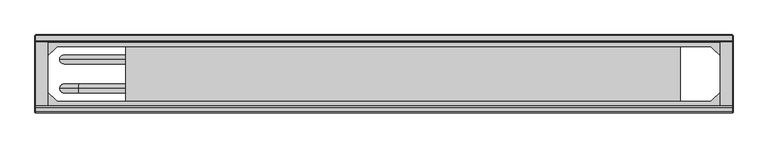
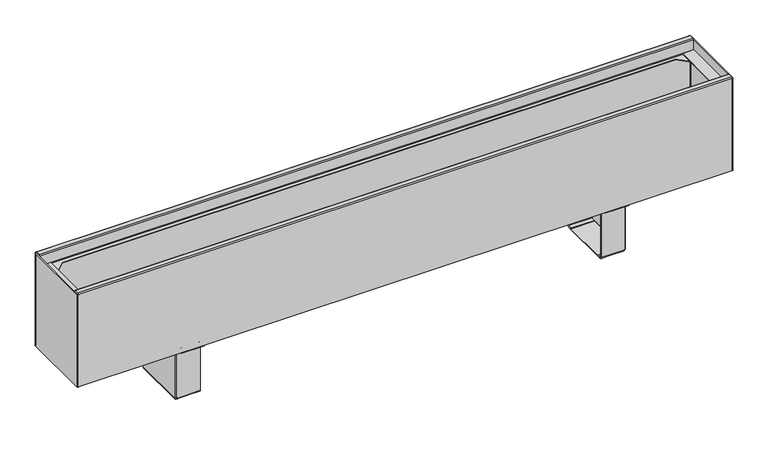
"""IFC4 building model written with IfcOpenShell, lengths in millimetres: proxy geometry, TECHNO_Конвектор напольный_Vita KPZ 135 : KPZ 135-180-1."""

from ifc_helpers import new_model, si_unit, point, frame, origin, place, context, project, spatial, polyline, circle_curve, ellipse_curve, trimmed, outline, extrude, source, transform, mapped, element, save
from ifc_brep_helpers import plane_surface, cylinder_surface, revolved_surface, advanced_brep


def mechanical_equipment_2dd0603b(model_context):
    return source(origin(), model_context, "Body", "SolidModel", [
        advanced_brep(
        [(409.7, -116.8, 1.5), (409.7, -114.5, 3.8), (409.7, -114.5, 4.9), (409.7, -116.0, 4.9), (409.7, -116.0, 3.8), (409.7, -116.8, 3.0), (409.7, -124.5, 3.0), (409.7, -124.5, 1.5), (409.7, -117.6, 1.5), (409.7, -114.5, 97.7), (409.7, -113.7, 98.5), (409.7, -101.0, 98.5), (409.7, -101.0, 100.0), (409.7, -113.7, 100.0), (409.7, -116.0, 97.7), (409.7, -116.0, 95.5), (409.7, -114.5, 95.5), (409.7, -220.5, 3.8), (409.7, -218.2, 1.5), (409.7, -217.4, 1.5), (409.7, -210.5, 1.5), (409.7, -210.5, 3.0), (409.7, -218.2, 3.0), (409.7, -219.0, 3.8), (409.7, -219.0, 4.9), (409.7, -220.5, 4.9), (409.7, -219.0, 97.7), (409.7, -221.3, 100.0), (409.7, -234.0, 100.0), (409.7, -234.0, 98.5), (409.7, -221.3, 98.5), (409.7, -220.5, 97.7), (409.7, -220.5, 95.5), (409.7, -219.0, 95.5), (367.0, -220.5, 97.7), (367.0, -221.3, 98.5), (367.0, -234.0, 98.5), (367.0, -234.0, 100.0), (367.0, -221.3, 100.0), (367.0, -219.0, 97.7), (367.0, -219.0, 3.8), (367.0, -218.2, 3.0), (367.0, -210.5, 3.0), (367.0, -210.5, 1.5), (367.0, -124.5, 1.5), (367.0, -124.5, 3.0), (367.0, -116.8, 3.0), (367.0, -116.0, 3.8), (367.0, -116.0, 97.7), (367.0, -113.7, 100.0), (367.0, -101.0, 100.0), (367.0, -101.0, 98.5), (367.0, -113.7, 98.5), (367.0, -114.5, 97.7), (367.0, -114.5, 3.8), (367.0, -116.8, 1.5), (367.0, -117.6, 1.5), (367.0, -117.6, 0.0), (367.0, -217.4, 0.0), (367.0, -217.4, 1.5), (367.0, -218.2, 1.5), (367.0, -220.5, 3.8), (410.5, -116.8, 95.5), (410.5, -218.2, 95.5), (412.0, -218.2, 95.5), (412.0, -116.8, 95.5), (412.0, -116.8, 4.9), (412.0, -117.6, 4.9), (410.5, -117.6, 4.9), (410.5, -116.8, 4.9), (410.5, -218.2, 4.9), (410.5, -217.4, 4.9), (412.0, -217.4, 4.9), (412.0, -218.2, 4.9), (410.5, -117.6, 2.3), (410.5, -217.4, 2.3), (412.0, -217.4, 2.3), (412.0, -117.6, 2.3), (409.7, -117.6, 0.0), (409.7, -217.4, 0.0)],
        [
            (0, 1, circle_curve(frame((409.7, -116.8, 3.8), z_axis=(1.0, 0.0, 0.0), x_axis=(0.0, -1.0, 0.0)), 2.3)),
            (1, 2),
            (2, 3),
            (3, 4),
            (4, 5, circle_curve(frame((409.7, -116.8, 3.8), z_axis=(-1.0, 0.0, 0.0), x_axis=(0.0, -1.0, 0.0)), 0.8)),
            (5, 6),
            (6, 7),
            (7, 8),
            (8, 0),
            (9, 10, circle_curve(frame((409.7, -113.7, 97.7), z_axis=(-1.0, 0.0, 0.0), x_axis=(0.0, -1.0, 0.0)), 0.8)),
            (10, 11),
            (11, 12),
            (12, 13),
            (13, 14, circle_curve(frame((409.7, -113.7, 97.7), z_axis=(1.0, 0.0, 0.0), x_axis=(0.0, -1.0, 0.0)), 2.3)),
            (14, 15),
            (15, 16),
            (16, 9),
            (17, 18, circle_curve(frame((409.7, -218.2, 3.8), z_axis=(1.0, 0.0, 0.0), x_axis=(0.0, -1.0, 0.0)), 2.3)),
            (18, 19),
            (19, 20),
            (20, 21),
            (21, 22),
            (22, 23, circle_curve(frame((409.7, -218.2, 3.8), z_axis=(-1.0, 0.0, 0.0), x_axis=(0.0, -1.0, 0.0)), 0.8)),
            (23, 24),
            (24, 25),
            (25, 17),
            (26, 27, circle_curve(frame((409.7, -221.3, 97.7), z_axis=(1.0, 0.0, 0.0), x_axis=(0.0, -1.0, 0.0)), 2.3)),
            (27, 28),
            (28, 29),
            (29, 30),
            (30, 31, circle_curve(frame((409.7, -221.3, 97.7), z_axis=(-1.0, 0.0, 0.0), x_axis=(0.0, -1.0, 0.0)), 0.8)),
            (31, 32),
            (32, 33),
            (33, 26),
            (34, 35, circle_curve(frame((367.0, -221.3, 97.7), z_axis=(1.0, 0.0, 0.0), x_axis=(0.0, -1.0, 0.0)), 0.8)),
            (35, 36),
            (36, 37),
            (37, 38),
            (38, 39, circle_curve(frame((367.0, -221.3, 97.7), z_axis=(-1.0, 0.0, 0.0), x_axis=(0.0, -1.0, 0.0)), 2.3)),
            (39, 40),
            (40, 41, circle_curve(frame((367.0, -218.2, 3.8), z_axis=(1.0, 0.0, 0.0), x_axis=(0.0, -1.0, 0.0)), 0.8)),
            (41, 42),
            (42, 43),
            (43, 44),
            (44, 45),
            (45, 46),
            (46, 47, circle_curve(frame((367.0, -116.8, 3.8), z_axis=(1.0, 0.0, 0.0), x_axis=(0.0, -1.0, 0.0)), 0.8)),
            (47, 48),
            (48, 49, circle_curve(frame((367.0, -113.7, 97.7), z_axis=(-1.0, 0.0, 0.0), x_axis=(0.0, -1.0, 0.0)), 2.3)),
            (49, 50),
            (50, 51),
            (51, 52),
            (52, 53, circle_curve(frame((367.0, -113.7, 97.7), z_axis=(1.0, 0.0, 0.0), x_axis=(0.0, -1.0, 0.0)), 0.8)),
            (53, 54),
            (54, 55, circle_curve(frame((367.0, -116.8, 3.8), z_axis=(-1.0, 0.0, 0.0), x_axis=(0.0, -1.0, 0.0)), 2.3)),
            (55, 56),
            (56, 57),
            (57, 58),
            (58, 59),
            (59, 60),
            (60, 61, circle_curve(frame((367.0, -218.2, 3.8), z_axis=(-1.0, 0.0, 0.0), x_axis=(0.0, -1.0, 0.0)), 2.3)),
            (61, 34),
            (30, 35),
            (34, 31),
            (29, 36),
            (28, 37),
            (27, 38),
            (26, 39),
            (33, 24),
            (23, 40),
            (22, 41),
            (5, 46),
            (45, 6),
            (4, 47),
            (3, 15),
            (14, 48),
            (13, 49),
            (12, 50),
            (11, 51),
            (10, 52),
            (9, 53),
            (16, 2),
            (1, 54),
            (0, 55),
            (8, 56),
            (17, 61),
            (60, 18),
            (25, 32),
            (21, 42),
            (20, 43),
            (59, 19),
            (44, 7),
            (15, 62, circle_curve(frame((409.7, -116.8, 95.5), z_axis=(0.0, 0.0, -1.0), x_axis=(-1.0, 0.0, 0.0)), 0.8)),
            (62, 63),
            (63, 33, circle_curve(frame((409.7, -218.2, 95.5), z_axis=(0.0, 0.0, -1.0), x_axis=(-1.0, 0.0, 0.0)), 0.8)),
            (32, 64, circle_curve(frame((409.7, -218.2, 95.5), z_axis=(0.0, 0.0, 1.0), x_axis=(-1.0, 0.0, 0.0)), 2.3)),
            (64, 65),
            (65, 16, circle_curve(frame((409.7, -116.8, 95.5), z_axis=(0.0, 0.0, 1.0), x_axis=(-1.0, 0.0, 0.0)), 2.3)),
            (2, 66, circle_curve(frame((409.7, -116.8, 4.9), z_axis=(0.0, 0.0, -1.0), x_axis=(-1.0, 0.0, 0.0)), 2.3)),
            (66, 67),
            (67, 68),
            (68, 69),
            (69, 3, circle_curve(frame((409.7, -116.8, 4.9), z_axis=(0.0, 0.0, 1.0), x_axis=(-1.0, 0.0, 0.0)), 0.8)),
            (24, 70, circle_curve(frame((409.7, -218.2, 4.9), z_axis=(0.0, 0.0, 1.0), x_axis=(-1.0, 0.0, 0.0)), 0.8)),
            (70, 71),
            (71, 72),
            (72, 73),
            (73, 25, circle_curve(frame((409.7, -218.2, 4.9), z_axis=(0.0, 0.0, -1.0), x_axis=(-1.0, 0.0, 0.0)), 2.3)),
            (69, 62),
            (68, 74),
            (74, 75),
            (75, 71),
            (70, 63),
            (64, 73),
            (72, 76),
            (76, 77),
            (77, 67),
            (66, 65),
            (8, 74, circle_curve(frame((409.7, -117.6, 2.3), z_axis=(0.0, -1.0, 0.0), x_axis=(-1.0, 0.0, 0.0)), 0.8)),
            (77, 78, circle_curve(frame((409.7, -117.6, 2.3), z_axis=(0.0, 1.0, 0.0), x_axis=(-1.0, 0.0, 0.0)), 2.3)),
            (78, 57),
            (58, 79),
            (79, 76, circle_curve(frame((409.7, -217.4, 2.3), z_axis=(0.0, -1.0, 0.0), x_axis=(-1.0, 0.0, 0.0)), 2.3)),
            (75, 19, circle_curve(frame((409.7, -217.4, 2.3), z_axis=(0.0, 1.0, 0.0), x_axis=(-1.0, 0.0, 0.0)), 0.8)),
            (20, 7),
            (79, 78),
        ],
        [
            plane_surface(frame((409.7, -222.1, 97.7), z_axis=(1.0, 0.0, 0.0), x_axis=(0.0, 0.0, 1.0))),
            plane_surface(frame((367.0, -222.1, 97.7), z_axis=(-1.0, 0.0, 0.0), x_axis=(0.0, 0.0, -1.0))),
            revolved_surface(polyline([(409.7, -222.10000000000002, 97.7), (367.0, -222.10000000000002, 97.7)]), (409.7, -221.3, 97.7), (1.0, 0.0, 0.0)),
            plane_surface(frame((367.0, -221.3, 98.5), z_axis=(0.0, 0.0, -1.0), x_axis=(1.0, 0.0, 0.0))),
            plane_surface(frame((367.0, -234.0, 98.5), z_axis=(0.0, -1.0, 0.0), x_axis=(1.0, 0.0, 0.0))),
            plane_surface(frame((367.0, -234.0, 100.0), z_axis=(0.0, 0.0, 1.0), x_axis=(1.0, 0.0, 0.0))),
            cylinder_surface(frame((409.7, -221.3, 97.7), z_axis=(-1.0, 0.0, 0.0), x_axis=(0.0, -1.0, 0.0)), 2.3),
            plane_surface(frame((367.0, -219.0, 97.7), z_axis=(0.0, 1.0, 0.0), x_axis=(1.0, 0.0, 0.0))),
            revolved_surface(polyline([(409.7, -219.0, 3.8), (367.0, -219.0, 3.8)]), (409.7, -218.2, 3.8), (1.0, 0.0, 0.0)),
            plane_surface(frame((367.0, -124.5, 3.0), z_axis=(0.0, 0.0, 1.0), x_axis=(1.0, 0.0, 0.0))),
            revolved_surface(polyline([(409.7, -117.6, 3.8), (367.0, -117.6, 3.8)]), (412.0, -116.8, 3.8), (1.0, 0.0, 0.0)),
            plane_surface(frame((367.0, -116.0, 3.8), z_axis=(0.0, -1.0, 0.0), x_axis=(1.0, 0.0, 0.0))),
            cylinder_surface(frame((412.0, -113.7, 97.7), z_axis=(-1.0, 0.0, 0.0), x_axis=(0.0, -1.0, 0.0)), 2.3),
            plane_surface(frame((367.0, -113.7, 100.0), z_axis=(0.0, 0.0, 1.0), x_axis=(1.0, 0.0, 0.0))),
            plane_surface(frame((367.0, -101.0, 100.0), z_axis=(0.0, 1.0, 0.0), x_axis=(1.0, 0.0, 0.0))),
            plane_surface(frame((367.0, -101.0, 98.5), z_axis=(0.0, 0.0, -1.0), x_axis=(1.0, 0.0, 0.0))),
            revolved_surface(polyline([(409.7, -114.5, 97.7), (367.0, -114.5, 97.7)]), (412.0, -113.7, 97.7), (1.0, 0.0, 0.0)),
            plane_surface(frame((367.0, -114.5, 97.7), z_axis=(0.0, 1.0, 0.0), x_axis=(1.0, 0.0, 0.0))),
            cylinder_surface(frame((412.0, -116.8, 3.8), z_axis=(-1.0, 0.0, 0.0), x_axis=(0.0, -1.0, 0.0)), 2.3),
            plane_surface(frame((367.0, -116.8, 1.5), z_axis=(0.0, 0.0, -1.0), x_axis=(1.0, 0.0, 0.0))),
            cylinder_surface(frame((409.7, -218.2, 3.8), z_axis=(-1.0, 0.0, 0.0), x_axis=(0.0, -1.0, 0.0)), 2.3),
            plane_surface(frame((367.0, -220.5, 3.8), z_axis=(0.0, -1.0, 0.0), x_axis=(1.0, 0.0, 0.0))),
            plane_surface(frame((367.0, -218.2, 3.0), z_axis=(0.0, 0.0, 1.0), x_axis=(1.0, 0.0, 0.0))),
            plane_surface(frame((367.0, -210.5, 3.0), z_axis=(0.0, 1.0, 0.0), x_axis=(1.0, 0.0, 0.0))),
            plane_surface(frame((367.0, -210.5, 1.5), z_axis=(0.0, 0.0, -1.0), x_axis=(1.0, 0.0, 0.0))),
            plane_surface(frame((367.0, -124.5, 1.5), z_axis=(0.0, -1.0, 0.0), x_axis=(1.0, 0.0, 0.0))),
            plane_surface(frame((409.7, -116.0, 95.5), z_axis=(0.0, 0.0, 1.0), x_axis=(0.0, -1.0, 0.0))),
            plane_surface(frame((409.7, -116.0, 4.9), z_axis=(0.0, 0.0, -1.0), x_axis=(0.0, 1.0, 0.0))),
            revolved_surface(polyline([(408.9, -116.8, 4.9), (408.9, -116.8, 95.5)]), (409.7, -116.8, 4.9), (0.0, 0.0, -1.0)),
            plane_surface(frame((410.5, -116.8, 95.5), z_axis=(-1.0, 0.0, 0.0), x_axis=(0.0, 0.0, -1.0))),
            plane_surface(frame((412.0, -117.6, 95.5), z_axis=(1.0, 0.0, 0.0), x_axis=(0.0, 0.0, -1.0))),
            cylinder_surface(frame((409.7, -116.8, 4.9), z_axis=(0.0, 0.0, 1.0), x_axis=(-1.0, 0.0, 0.0)), 2.3),
            cylinder_surface(frame((409.7, -218.2, 0.0), z_axis=(0.0, 0.0, 1.0), x_axis=(-1.0, 0.0, 0.0)), 2.3),
            revolved_surface(polyline([(408.9, -218.2, 4.9), (408.9, -218.2, 95.5)]), (409.7, -218.2, 0.0), (0.0, 0.0, -1.0)),
            plane_surface(frame((367.0, -117.6, 1.5), z_axis=(0.0, 1.0, 0.0), x_axis=(0.0, 0.0, 1.0))),
            plane_surface(frame((367.0, -217.4, 1.5), z_axis=(0.0, -1.0, 0.0), x_axis=(0.0, 0.0, -1.0))),
            plane_surface(frame((367.0, -117.6, 1.5), z_axis=(0.0, 0.0, 1.0), x_axis=(0.0, -1.0, 0.0))),
            revolved_surface(polyline([(408.9, -217.4, 2.3), (408.9, -117.6, 2.3)]), (409.7, -217.4, 2.3), (0.0, -1.0, 0.0)),
            cylinder_surface(frame((409.7, -217.4, 2.3), z_axis=(0.0, 1.0, 0.0), x_axis=(-1.0, 0.0, 0.0)), 2.3),
            plane_surface(frame((409.7, -117.6, 0.0), z_axis=(0.0, 0.0, -1.0), x_axis=(0.0, -1.0, 0.0))),
        ],
        [
            (0, [[1, 2, 3, 4, 5, 6, 7, 8, 9]]),
            (0, [[10, 11, 12, 13, 14, 15, 16, 17]]),
            (0, [[18, 19, 20, 21, 22, 23, 24, 25, 26]]),
            (0, [[27, 28, 29, 30, 31, 32, 33, 34]]),
            (1, [[35, 36, 37, 38, 39, 40, 41, 42, 43, 44, 45, 46, 47, 48, 49, 50, 51, 52, 53, 54, 55, 56, 57, 58, 59, 60, 61, 62]]),
            (2, [[-31, 63, -35, 64]]),
            (3, [[-30, 65, -36, -63]]),
            (4, [[-29, 66, -37, -65]]),
            (5, [[-28, 67, -38, -66]]),
            (6, [[-27, 68, -39, -67]]),
            (7, [[-40, -68, -34, 69, -24, 70]]),
            (8, [[-23, 71, -41, -70]]),
            (9, [[-6, 72, -46, 73]]),
            (10, [[-5, 74, -47, -72]]),
            (11, [[-48, -74, -4, 75, -15, 76]]),
            (12, [[-14, 77, -49, -76]]),
            (13, [[-13, 78, -50, -77]]),
            (14, [[-12, 79, -51, -78]]),
            (15, [[-11, 80, -52, -79]]),
            (16, [[-10, 81, -53, -80]]),
            (17, [[-54, -81, -17, 82, -2, 83]]),
            (18, [[-1, 84, -55, -83]]),
            (19, [[-84, -9, 85, -56]]),
            (20, [[-18, 86, -61, 87]]),
            (21, [[-62, -86, -26, 88, -32, -64]]),
            (22, [[-22, 89, -42, -71]]),
            (23, [[-21, 90, -43, -89]]),
            (24, [[-87, -60, 91, -19]]),
            (25, [[-7, -73, -45, 92]]),
            (26, [[93, 94, 95, -33, 96, 97, 98, -16]]),
            (27, [[99, 100, 101, 102, 103, -3]]),
            (27, [[104, 105, 106, 107, 108, -25]]),
            (28, [[-93, -75, -103, 109]]),
            (29, [[-94, -109, -102, 110, 111, 112, -105, 113]]),
            (30, [[-97, 114, -107, 115, 116, 117, -100, 118]]),
            (31, [[-98, -118, -99, -82]]),
            (32, [[-96, -88, -108, -114]]),
            (33, [[-95, -113, -104, -69]]),
            (34, [[-57, -85, 119, -110, -101, -117, 120, 121]]),
            (35, [[122, 123, -115, -106, -112, 124, -91, -59]]),
            (36, [[125, -92, -44, -90]]),
            (37, [[-119, -8, -125, -20, -124, -111]]),
            (38, [[-120, -116, -123, 126]]),
            (39, [[-121, -126, -122, -58]]),
        ],
    ),
        advanced_brep(
        [(-409.7, -218.2, 1.5), (-409.7, -220.5, 3.8), (-409.7, -220.5, 4.9), (-409.7, -219.0, 4.9), (-409.7, -219.0, 3.8), (-409.7, -218.2, 3.0), (-409.7, -210.5, 3.0), (-409.7, -210.5, 1.5), (-409.7, -217.4, 1.5), (-409.7, -220.5, 97.7), (-409.7, -221.3, 98.5), (-409.7, -234.0, 98.5), (-409.7, -234.0, 100.0), (-409.7, -221.3, 100.0), (-409.7, -219.0, 97.7), (-409.7, -219.0, 95.5), (-409.7, -220.5, 95.5), (-409.7, -114.5, 3.8), (-409.7, -116.8, 1.5), (-409.7, -117.6, 1.5), (-409.7, -124.5, 1.5), (-409.7, -124.5, 3.0), (-409.7, -116.8, 3.0), (-409.7, -116.0, 3.8), (-409.7, -116.0, 4.9), (-409.7, -114.5, 4.9), (-409.7, -116.0, 97.7), (-409.7, -113.7, 100.0), (-409.7, -101.0, 100.0), (-409.7, -101.0, 98.5), (-409.7, -113.7, 98.5), (-409.7, -114.5, 97.7), (-409.7, -114.5, 95.5), (-409.7, -116.0, 95.5), (-367.0, -114.5, 97.7), (-367.0, -113.7, 98.5), (-367.0, -101.0, 98.5), (-367.0, -101.0, 100.0), (-367.0, -113.7, 100.0), (-367.0, -116.0, 97.7), (-367.0, -116.0, 3.8), (-367.0, -116.8, 3.0), (-367.0, -124.5, 3.0), (-367.0, -124.5, 1.5), (-367.0, -210.5, 1.5), (-367.0, -210.5, 3.0), (-367.0, -218.2, 3.0), (-367.0, -219.0, 3.8), (-367.0, -219.0, 97.7), (-367.0, -221.3, 100.0), (-367.0, -234.0, 100.0), (-367.0, -234.0, 98.5), (-367.0, -221.3, 98.5), (-367.0, -220.5, 97.7), (-367.0, -220.5, 3.8), (-367.0, -218.2, 1.5), (-367.0, -217.4, 1.5), (-367.0, -217.4, 0.0), (-367.0, -117.6, 0.0), (-367.0, -117.6, 1.5), (-367.0, -116.8, 1.5), (-367.0, -114.5, 3.8), (-410.5, -218.2, 95.5), (-410.5, -116.8, 95.5), (-412.0, -116.8, 95.5), (-412.0, -218.2, 95.5), (-412.0, -218.2, 4.9), (-412.0, -217.4, 4.9), (-410.5, -217.4, 4.9), (-410.5, -218.2, 4.9), (-410.5, -116.8, 4.9), (-410.5, -117.6, 4.9), (-412.0, -117.6, 4.9), (-412.0, -116.8, 4.9), (-410.5, -217.4, 2.3), (-410.5, -117.6, 2.3), (-412.0, -117.6, 2.3), (-412.0, -217.4, 2.3), (-409.7, -217.4, 0.0), (-409.7, -117.6, 0.0)],
        [
            (0, 1, circle_curve(frame((-409.7, -218.2, 3.8), z_axis=(-1.0, 0.0, 0.0), x_axis=(0.0, 1.0, 0.0)), 2.3)),
            (1, 2),
            (2, 3),
            (3, 4),
            (4, 5, circle_curve(frame((-409.7, -218.2, 3.8), z_axis=(1.0, 0.0, 0.0), x_axis=(0.0, 1.0, 0.0)), 0.8)),
            (5, 6),
            (6, 7),
            (7, 8),
            (8, 0),
            (9, 10, circle_curve(frame((-409.7, -221.3, 97.7), z_axis=(1.0, 0.0, 0.0), x_axis=(0.0, 1.0, 0.0)), 0.8)),
            (10, 11),
            (11, 12),
            (12, 13),
            (13, 14, circle_curve(frame((-409.7, -221.3, 97.7), z_axis=(-1.0, 0.0, 0.0), x_axis=(0.0, 1.0, 0.0)), 2.3)),
            (14, 15),
            (15, 16),
            (16, 9),
            (17, 18, circle_curve(frame((-409.7, -116.8, 3.8), z_axis=(-1.0, 0.0, 0.0), x_axis=(0.0, 1.0, 0.0)), 2.3)),
            (18, 19),
            (19, 20),
            (20, 21),
            (21, 22),
            (22, 23, circle_curve(frame((-409.7, -116.8, 3.8), z_axis=(1.0, 0.0, 0.0), x_axis=(0.0, 1.0, 0.0)), 0.8)),
            (23, 24),
            (24, 25),
            (25, 17),
            (26, 27, circle_curve(frame((-409.7, -113.7, 97.7), z_axis=(-1.0, 0.0, 0.0), x_axis=(0.0, 1.0, 0.0)), 2.3)),
            (27, 28),
            (28, 29),
            (29, 30),
            (30, 31, circle_curve(frame((-409.7, -113.7, 97.7), z_axis=(1.0, 0.0, 0.0), x_axis=(0.0, 1.0, 0.0)), 0.8)),
            (31, 32),
            (32, 33),
            (33, 26),
            (34, 35, circle_curve(frame((-367.0, -113.7, 97.7), z_axis=(-1.0, 0.0, 0.0), x_axis=(0.0, 1.0, 0.0)), 0.8)),
            (35, 36),
            (36, 37),
            (37, 38),
            (38, 39, circle_curve(frame((-367.0, -113.7, 97.7), z_axis=(1.0, 0.0, 0.0), x_axis=(0.0, 1.0, 0.0)), 2.3)),
            (39, 40),
            (40, 41, circle_curve(frame((-367.0, -116.8, 3.8), z_axis=(-1.0, 0.0, 0.0), x_axis=(0.0, 1.0, 0.0)), 0.8)),
            (41, 42),
            (42, 43),
            (43, 44),
            (44, 45),
            (45, 46),
            (46, 47, circle_curve(frame((-367.0, -218.2, 3.8), z_axis=(-1.0, 0.0, 0.0), x_axis=(0.0, 1.0, 0.0)), 0.8)),
            (47, 48),
            (48, 49, circle_curve(frame((-367.0, -221.3, 97.7), z_axis=(1.0, 0.0, 0.0), x_axis=(0.0, 1.0, 0.0)), 2.3)),
            (49, 50),
            (50, 51),
            (51, 52),
            (52, 53, circle_curve(frame((-367.0, -221.3, 97.7), z_axis=(-1.0, 0.0, 0.0), x_axis=(0.0, 1.0, 0.0)), 0.8)),
            (53, 54),
            (54, 55, circle_curve(frame((-367.0, -218.2, 3.8), z_axis=(1.0, 0.0, 0.0), x_axis=(0.0, 1.0, 0.0)), 2.3)),
            (55, 56),
            (56, 57),
            (57, 58),
            (58, 59),
            (59, 60),
            (60, 61, circle_curve(frame((-367.0, -116.8, 3.8), z_axis=(1.0, 0.0, 0.0), x_axis=(0.0, 1.0, 0.0)), 2.3)),
            (61, 34),
            (30, 35),
            (34, 31),
            (29, 36),
            (28, 37),
            (27, 38),
            (26, 39),
            (33, 24),
            (23, 40),
            (22, 41),
            (5, 46),
            (45, 6),
            (4, 47),
            (3, 15),
            (14, 48),
            (13, 49),
            (12, 50),
            (11, 51),
            (10, 52),
            (9, 53),
            (16, 2),
            (1, 54),
            (0, 55),
            (8, 56),
            (17, 61),
            (60, 18),
            (25, 32),
            (21, 42),
            (20, 43),
            (59, 19),
            (44, 7),
            (15, 62, circle_curve(frame((-409.7, -218.2, 95.5), z_axis=(0.0, 0.0, -1.0), x_axis=(1.0, 0.0, 0.0)), 0.8)),
            (62, 63),
            (63, 33, circle_curve(frame((-409.7, -116.8, 95.5), z_axis=(0.0, 0.0, -1.0), x_axis=(1.0, 0.0, 0.0)), 0.8)),
            (32, 64, circle_curve(frame((-409.7, -116.8, 95.5), z_axis=(0.0, 0.0, 1.0), x_axis=(1.0, 0.0, 0.0)), 2.3)),
            (64, 65),
            (65, 16, circle_curve(frame((-409.7, -218.2, 95.5), z_axis=(0.0, 0.0, 1.0), x_axis=(1.0, 0.0, 0.0)), 2.3)),
            (2, 66, circle_curve(frame((-409.7, -218.2, 4.9), z_axis=(0.0, 0.0, -1.0), x_axis=(1.0, 0.0, 0.0)), 2.3)),
            (66, 67),
            (67, 68),
            (68, 69),
            (69, 3, circle_curve(frame((-409.7, -218.2, 4.9), z_axis=(0.0, 0.0, 1.0), x_axis=(1.0, 0.0, 0.0)), 0.8)),
            (24, 70, circle_curve(frame((-409.7, -116.8, 4.9), z_axis=(0.0, 0.0, 1.0), x_axis=(1.0, 0.0, 0.0)), 0.8)),
            (70, 71),
            (71, 72),
            (72, 73),
            (73, 25, circle_curve(frame((-409.7, -116.8, 4.9), z_axis=(0.0, 0.0, -1.0), x_axis=(1.0, 0.0, 0.0)), 2.3)),
            (69, 62),
            (68, 74),
            (74, 75),
            (75, 71),
            (70, 63),
            (64, 73),
            (72, 76),
            (76, 77),
            (77, 67),
            (66, 65),
            (8, 74, circle_curve(frame((-409.7, -217.4, 2.3), z_axis=(0.0, 1.0, 0.0), x_axis=(1.0, 0.0, 0.0)), 0.8)),
            (77, 78, circle_curve(frame((-409.7, -217.4, 2.3), z_axis=(0.0, -1.0, 0.0), x_axis=(1.0, 0.0, 0.0)), 2.3)),
            (78, 57),
            (58, 79),
            (79, 76, circle_curve(frame((-409.7, -117.6, 2.3), z_axis=(0.0, 1.0, 0.0), x_axis=(1.0, 0.0, 0.0)), 2.3)),
            (75, 19, circle_curve(frame((-409.7, -117.6, 2.3), z_axis=(0.0, -1.0, 0.0), x_axis=(1.0, 0.0, 0.0)), 0.8)),
            (20, 7),
            (79, 78),
        ],
        [
            plane_surface(frame((-409.7, -112.9, 97.7), z_axis=(-1.0, 0.0, 0.0), x_axis=(0.0, 0.0, 1.0))),
            plane_surface(frame((-367.0, -112.9, 97.7), z_axis=(1.0, 0.0, 0.0), x_axis=(0.0, 0.0, -1.0))),
            revolved_surface(polyline([(-409.7, -112.9, 97.7), (-367.0, -112.9, 97.7)]), (-409.7, -113.7, 97.7), (-1.0, 0.0, 0.0)),
            plane_surface(frame((-367.0, -113.7, 98.5), z_axis=(0.0, 0.0, -1.0), x_axis=(-1.0, 0.0, 0.0))),
            plane_surface(frame((-367.0, -101.0, 98.5), z_axis=(0.0, 1.0, 0.0), x_axis=(-1.0, 0.0, 0.0))),
            plane_surface(frame((-367.0, -101.0, 100.0), z_axis=(0.0, 0.0, 1.0), x_axis=(-1.0, 0.0, 0.0))),
            cylinder_surface(frame((-409.7, -113.7, 97.7), z_axis=(1.0, 0.0, 0.0), x_axis=(0.0, 1.0, 0.0)), 2.3),
            plane_surface(frame((-367.0, -116.0, 97.7), z_axis=(0.0, -1.0, 0.0), x_axis=(-1.0, 0.0, 0.0))),
            revolved_surface(polyline([(-409.7, -116.0, 3.8), (-367.0, -116.0, 3.8)]), (-409.7, -116.8, 3.8), (-1.0, 0.0, 0.0)),
            plane_surface(frame((-367.0, -210.5, 3.0), z_axis=(0.0, 0.0, 1.0), x_axis=(-1.0, 0.0, 0.0))),
            revolved_surface(polyline([(-409.7, -217.39999999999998, 3.8), (-367.0, -217.39999999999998, 3.8)]), (-412.0, -218.2, 3.8), (-1.0, 0.0, 0.0)),
            plane_surface(frame((-367.0, -219.0, 3.8), z_axis=(0.0, 1.0, 0.0), x_axis=(-1.0, 0.0, 0.0))),
            cylinder_surface(frame((-412.0, -221.3, 97.7), z_axis=(1.0, 0.0, 0.0), x_axis=(0.0, 1.0, 0.0)), 2.3),
            plane_surface(frame((-367.0, -221.3, 100.0), z_axis=(0.0, 0.0, 1.0), x_axis=(-1.0, 0.0, 0.0))),
            plane_surface(frame((-367.0, -234.0, 100.0), z_axis=(0.0, -1.0, 0.0), x_axis=(-1.0, 0.0, 0.0))),
            plane_surface(frame((-367.0, -234.0, 98.5), z_axis=(0.0, 0.0, -1.0), x_axis=(-1.0, 0.0, 0.0))),
            revolved_surface(polyline([(-409.7, -220.5, 97.7), (-367.0, -220.5, 97.7)]), (-412.0, -221.3, 97.7), (-1.0, 0.0, 0.0)),
            plane_surface(frame((-367.0, -220.5, 97.7), z_axis=(0.0, -1.0, 0.0), x_axis=(-1.0, 0.0, 0.0))),
            cylinder_surface(frame((-412.0, -218.2, 3.8), z_axis=(1.0, 0.0, 0.0), x_axis=(0.0, 1.0, 0.0)), 2.3),
            plane_surface(frame((-367.0, -218.2, 1.5), z_axis=(0.0, 0.0, -1.0), x_axis=(-1.0, 0.0, 0.0))),
            cylinder_surface(frame((-409.7, -116.8, 3.8), z_axis=(1.0, 0.0, 0.0), x_axis=(0.0, 1.0, 0.0)), 2.3),
            plane_surface(frame((-367.0, -114.5, 3.8), z_axis=(0.0, 1.0, 0.0), x_axis=(-1.0, 0.0, 0.0))),
            plane_surface(frame((-367.0, -116.8, 3.0), z_axis=(0.0, 0.0, 1.0), x_axis=(-1.0, 0.0, 0.0))),
            plane_surface(frame((-367.0, -124.5, 3.0), z_axis=(0.0, -1.0, 0.0), x_axis=(-1.0, 0.0, 0.0))),
            plane_surface(frame((-367.0, -124.5, 1.5), z_axis=(0.0, 0.0, -1.0), x_axis=(-1.0, 0.0, 0.0))),
            plane_surface(frame((-367.0, -210.5, 1.5), z_axis=(0.0, 1.0, 0.0), x_axis=(-1.0, 0.0, 0.0))),
            plane_surface(frame((-409.7, -219.0, 95.5), z_axis=(0.0, 0.0, 1.0), x_axis=(0.0, 1.0, 0.0))),
            plane_surface(frame((-409.7, -219.0, 4.9), z_axis=(0.0, 0.0, -1.0), x_axis=(0.0, -1.0, 0.0))),
            revolved_surface(polyline([(-408.9, -218.2, 4.9), (-408.9, -218.2, 95.5)]), (-409.7, -218.2, 4.9), (0.0, 0.0, -1.0)),
            plane_surface(frame((-410.5, -218.2, 95.5), z_axis=(1.0, 0.0, 0.0), x_axis=(0.0, 0.0, -1.0))),
            plane_surface(frame((-412.0, -217.4, 95.5), z_axis=(-1.0, 0.0, 0.0), x_axis=(0.0, 0.0, -1.0))),
            cylinder_surface(frame((-409.7, -218.2, 4.9), z_axis=(0.0, 0.0, 1.0), x_axis=(1.0, 0.0, 0.0)), 2.3),
            cylinder_surface(frame((-409.7, -116.8, 0.0), z_axis=(0.0, 0.0, 1.0), x_axis=(1.0, 0.0, 0.0)), 2.3),
            revolved_surface(polyline([(-408.9, -116.8, 4.9), (-408.9, -116.8, 95.5)]), (-409.7, -116.8, 0.0), (0.0, 0.0, -1.0)),
            plane_surface(frame((-367.0, -217.4, 1.5), z_axis=(0.0, -1.0, 0.0), x_axis=(0.0, 0.0, 1.0))),
            plane_surface(frame((-367.0, -117.6, 1.5), z_axis=(0.0, 1.0, 0.0), x_axis=(0.0, 0.0, -1.0))),
            plane_surface(frame((-367.0, -217.4, 1.5), z_axis=(0.0, 0.0, 1.0), x_axis=(0.0, 1.0, 0.0))),
            revolved_surface(polyline([(-408.9, -117.6, 2.3), (-408.9, -217.4, 2.3)]), (-409.7, -117.6, 2.3), (0.0, 1.0, 0.0)),
            cylinder_surface(frame((-409.7, -117.6, 2.3), z_axis=(0.0, -1.0, 0.0), x_axis=(1.0, 0.0, 0.0)), 2.3),
            plane_surface(frame((-409.7, -217.4, 0.0), z_axis=(0.0, 0.0, -1.0), x_axis=(0.0, 1.0, 0.0))),
        ],
        [
            (0, [[1, 2, 3, 4, 5, 6, 7, 8, 9]]),
            (0, [[10, 11, 12, 13, 14, 15, 16, 17]]),
            (0, [[18, 19, 20, 21, 22, 23, 24, 25, 26]]),
            (0, [[27, 28, 29, 30, 31, 32, 33, 34]]),
            (1, [[35, 36, 37, 38, 39, 40, 41, 42, 43, 44, 45, 46, 47, 48, 49, 50, 51, 52, 53, 54, 55, 56, 57, 58, 59, 60, 61, 62]]),
            (2, [[-31, 63, -35, 64]]),
            (3, [[-30, 65, -36, -63]]),
            (4, [[-29, 66, -37, -65]]),
            (5, [[-28, 67, -38, -66]]),
            (6, [[-27, 68, -39, -67]]),
            (7, [[-40, -68, -34, 69, -24, 70]]),
            (8, [[-23, 71, -41, -70]]),
            (9, [[-6, 72, -46, 73]]),
            (10, [[-5, 74, -47, -72]]),
            (11, [[-48, -74, -4, 75, -15, 76]]),
            (12, [[-14, 77, -49, -76]]),
            (13, [[-13, 78, -50, -77]]),
            (14, [[-12, 79, -51, -78]]),
            (15, [[-11, 80, -52, -79]]),
            (16, [[-10, 81, -53, -80]]),
            (17, [[-54, -81, -17, 82, -2, 83]]),
            (18, [[-1, 84, -55, -83]]),
            (19, [[-84, -9, 85, -56]]),
            (20, [[-18, 86, -61, 87]]),
            (21, [[-62, -86, -26, 88, -32, -64]]),
            (22, [[-22, 89, -42, -71]]),
            (23, [[-21, 90, -43, -89]]),
            (24, [[-87, -60, 91, -19]]),
            (25, [[-7, -73, -45, 92]]),
            (26, [[93, 94, 95, -33, 96, 97, 98, -16]]),
            (27, [[99, 100, 101, 102, 103, -3]]),
            (27, [[104, 105, 106, 107, 108, -25]]),
            (28, [[-93, -75, -103, 109]]),
            (29, [[-94, -109, -102, 110, 111, 112, -105, 113]]),
            (30, [[-97, 114, -107, 115, 116, 117, -100, 118]]),
            (31, [[-98, -118, -99, -82]]),
            (32, [[-96, -88, -108, -114]]),
            (33, [[-95, -113, -104, -69]]),
            (34, [[-57, -85, 119, -110, -101, -117, 120, 121]]),
            (35, [[122, 123, -115, -106, -112, 124, -91, -59]]),
            (36, [[125, -92, -44, -90]]),
            (37, [[-119, -8, -125, -20, -124, -111]]),
            (38, [[-120, -116, -123, 126]]),
            (39, [[-121, -126, -122, -58]]),
        ],
    ),
        advanced_brep(
        [(-444.0, -192.5, 136.5), (-444.0, -192.5, 121.5), (-525.0, -192.5, 136.5), (-525.0, -192.5, 121.5), (-542.5, -192.5, 104.0), (-557.5, -192.5, 104.0), (-557.5, -192.5, 100.0), (-542.5, -192.5, 100.0)],
        [
            (0, 1, circle_curve(frame((-444.0, -192.5, 129.0), z_axis=(1.0, 0.0, 0.0), x_axis=(0.0, 0.0, -1.0)), 7.5)),
            (1, 0, circle_curve(frame((-444.0, -192.5, 129.0), z_axis=(1.0, 0.0, 0.0), x_axis=(0.0, 0.0, -1.0)), 7.5)),
            (0, 2),
            (2, 3, circle_curve(frame((-525.0, -192.5, 129.0), z_axis=(1.0, 0.0, 0.0), x_axis=(0.0, 0.0, -1.0)), 7.5)),
            (3, 1),
            (3, 2, circle_curve(frame((-525.0, -192.5, 129.0), z_axis=(1.0, 0.0, 0.0), x_axis=(0.0, 0.0, -1.0)), 7.5)),
            (4, 3, circle_curve(frame((-525.0, -192.5, 104.0), z_axis=(0.0, 1.0, 0.0), x_axis=(0.0, 0.0, 1.0)), 17.5)),
            (2, 5, circle_curve(frame((-525.0, -192.5, 104.0), z_axis=(0.0, -1.0, 0.0), x_axis=(0.0, 0.0, 1.0)), 32.5)),
            (5, 4, circle_curve(frame((-550.0, -192.5, 104.0), z_axis=(0.0, 0.0, 1.0), x_axis=(1.0, 0.0, 0.0)), 7.5)),
            (4, 5, circle_curve(frame((-550.0, -192.5, 104.0), z_axis=(0.0, 0.0, 1.0), x_axis=(1.0, 0.0, 0.0)), 7.5)),
            (6, 7, circle_curve(frame((-550.0, -192.5, 100.0), z_axis=(0.0, 0.0, -1.0), x_axis=(1.0, 0.0, 0.0)), 7.5)),
            (7, 6, circle_curve(frame((-550.0, -192.5, 100.0), z_axis=(0.0, 0.0, -1.0), x_axis=(1.0, 0.0, 0.0)), 7.5)),
            (5, 6),
            (7, 4),
        ],
        [
            plane_surface(frame((-444.0, -192.5, 129.0), z_axis=(1.0, 0.0, 0.0), x_axis=(0.0, -1.0, 0.0))),
            cylinder_surface(frame((-444.0, -192.5, 129.0), z_axis=(1.0, 0.0, 0.0), x_axis=(0.0, 0.0, -1.0)), 7.5),
            revolved_surface(trimmed(ellipse_curve(frame((-525.0, -192.5, 129.0), z_axis=(1.0, 0.0, 0.0), x_axis=(0.0, 0.0, -1.0)), 7.5, 7.5), [point((-525.0, -192.5, 136.5))], [point((-525.0, -192.5, 121.5))], True, "CARTESIAN"), (-525.0, -192.5, 104.0), (0.0, -1.0, 0.0)),
            revolved_surface(trimmed(ellipse_curve(frame((-525.0, -192.5, 129.0), z_axis=(1.0, 0.0, 0.0), x_axis=(0.0, 0.0, -1.0)), 7.5, 7.5), [point((-525.0, -192.5, 121.5))], [point((-525.0, -192.5, 136.5))], True, "CARTESIAN"), (-525.0, -192.5, 104.0), (0.0, -1.0, 0.0)),
            plane_surface(frame((-550.0, -192.5, 100.0), z_axis=(0.0, 0.0, -1.0), x_axis=(0.0, -1.0, 0.0))),
            cylinder_surface(frame((-550.0, -192.5, 104.0), z_axis=(0.0, 0.0, 1.0), x_axis=(1.0, 0.0, 0.0)), 7.5),
        ],
        [
            (0, [[1, 2]]),
            (1, [[-1, 3, 4, 5]]),
            (1, [[-2, -5, 6, -3]]),
            (2, [[7, -4, 8, 9]]),
            (3, [[-8, -6, -7, 10]]),
            (4, [[11, 12]]),
            (5, [[-9, 13, -12, 14]]),
            (5, [[-10, -14, -11, -13]]),
        ],
    ),
        advanced_brep(
        [(-444.0, -142.5, 136.5), (-444.0, -142.5, 121.5), (-557.5, -142.5, 136.5), (-542.5, -142.5, 121.5), (-557.5, -142.5, 100.0), (-542.5, -142.5, 100.0)],
        [
            (0, 1, circle_curve(frame((-444.0, -142.5, 129.0), z_axis=(1.0, 0.0, 0.0), x_axis=(0.0, 0.0, -1.0)), 7.5)),
            (1, 0, circle_curve(frame((-444.0, -142.5, 129.0), z_axis=(1.0, 0.0, 0.0), x_axis=(0.0, 0.0, -1.0)), 7.5)),
            (0, 2),
            (2, 3, ellipse_curve(frame((-550.0, -142.5, 129.0), z_axis=(0.7071067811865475, 0.0, 0.7071067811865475), x_axis=(0.7071067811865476, 0.0, -0.7071067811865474)), 10.6066017, 7.5)),
            (3, 1),
            (3, 2, ellipse_curve(frame((-550.0, -142.5, 129.0), z_axis=(0.7071067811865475, 0.0, 0.7071067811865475), x_axis=(0.7071067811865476, 0.0, -0.7071067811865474)), 10.6066017, 7.5)),
            (4, 5, circle_curve(frame((-550.0, -142.5, 100.0), z_axis=(0.0, 0.0, -1.0), x_axis=(1.0, 0.0, 0.0)), 7.5)),
            (5, 4, circle_curve(frame((-550.0, -142.5, 100.0), z_axis=(0.0, 0.0, -1.0), x_axis=(1.0, 0.0, 0.0)), 7.5)),
            (2, 4),
            (5, 3),
        ],
        [
            plane_surface(frame((-444.0, -142.5, 129.0), z_axis=(1.0, 0.0, 0.0), x_axis=(0.0, -1.0, 0.0))),
            cylinder_surface(frame((-444.0, -142.5, 129.0), z_axis=(1.0, 0.0, 0.0), x_axis=(0.0, 0.0, -1.0)), 7.5),
            plane_surface(frame((-550.0, -142.5, 100.0), z_axis=(0.0, 0.0, -1.0), x_axis=(0.0, -1.0, 0.0))),
            cylinder_surface(frame((-550.0, -142.5, 129.0), z_axis=(0.0, 0.0, 1.0), x_axis=(1.0, 0.0, 0.0)), 7.5),
        ],
        [
            (0, [[1, 2]]),
            (1, [[-1, 3, 4, 5]]),
            (1, [[-2, -5, 6, -3]]),
            (2, [[7, 8]]),
            (3, [[-4, 9, -8, 10]]),
            (3, [[-6, -10, -7, -9]]),
        ],
    ),
        extrude(outline(polyline([(509.0, -117.5), (509.0, -217.5), (-444.0, -217.5), (-444.0, -117.5), (509.0, -117.5)])), frame((0.0, 0.0, 103.87), z_axis=(0.0, 0.0, 1.0), x_axis=(1.0, 0.0, 0.0)), (0.0, 0.0, 1.0), 50.0),
        extrude(outline(polyline([(-585.5004, -102.0), (-585.5004, -233.0), (-599.0, -233.0), (-599.0, -102.0), (-585.5004, -102.0)])), frame((0.0, 0.0, 101.83), z_axis=(0.0, 0.0, 1.0), x_axis=(1.0, 0.0, 0.0)), (0.0, 0.0, 1.0), 1.0002),
        extrude(outline(polyline([(585.5004, -102.0), (599.0, -102.0), (599.0, -233.0), (585.5004, -233.0), (585.5004, -102.0)])), frame((0.0, 0.0, 101.83), z_axis=(0.0, 0.0, 1.0), x_axis=(1.0, 0.0, 0.0)), (0.0, 0.0, 1.0), 1.0002),
        extrude(outline(polyline([(-599.0, -222.2), (-599.0, -112.8), (-578.0, -112.8), (-578.0, -222.2), (-599.0, -222.2)])), frame((0.0, 0.0, 258.83), z_axis=(0.0, 0.0, 1.0), x_axis=(1.0, 0.0, 0.0)), (0.0, 0.0, 1.0), 1.0002),
        extrude(outline(polyline([(599.0, -222.2), (578.0, -222.2), (578.0, -112.8), (599.0, -112.8), (599.0, -222.2)])), frame((0.0, 0.0, 258.83), z_axis=(0.0, 0.0, 1.0), x_axis=(1.0, 0.0, 0.0)), (0.0, 0.0, 1.0), 1.0002),
        advanced_brep(
        [(-598.2, -101.8, 280.83), (-598.2, -100.0, 279.03), (-598.2, -101.0, 279.03), (-598.2, -101.0, 257.83), (-598.2, -138.5, 257.83), (-598.2, -138.5, 258.83), (-598.2, -112.8, 258.83), (-598.2, -112.0, 259.63), (-598.2, -112.0, 279.03), (-598.2, -110.2, 280.83), (-598.2, -233.2, 280.83), (-598.2, -224.8, 280.83), (-598.2, -223.0, 279.03), (-598.2, -223.0, 259.63), (-598.2, -222.2, 258.83), (-598.2, -196.5, 258.83), (-598.2, -196.5, 257.83), (-598.2, -234.0, 257.83), (-598.2, -234.0, 279.03), (-598.2, -235.0, 279.03), (598.2, -101.8, 280.83), (598.2, -110.2, 280.83), (598.2, -112.0, 279.03), (598.2, -112.0, 259.63), (598.2, -112.8, 258.83), (598.2, -138.5, 258.83), (598.2, -138.5, 257.83), (598.2, -101.0, 257.83), (598.2, -101.0, 279.03), (598.2, -100.0, 279.03), (598.2, -233.2, 280.83), (598.2, -235.0, 279.03), (598.2, -234.0, 279.03), (598.2, -234.0, 257.83), (598.2, -196.5, 257.83), (598.2, -196.5, 258.83), (598.2, -222.2, 258.83), (598.2, -223.0, 259.63), (598.2, -223.0, 279.03), (598.2, -224.8, 280.83), (-580.3, -138.5, 258.83), (-561.8, -120.0, 258.83), (561.8, -120.0, 258.83), (580.3, -138.5, 258.83), (-580.3, -138.5, 257.83), (580.3, -138.5, 257.83), (561.8, -120.0, 257.83), (-561.8, -120.0, 257.83), (598.2, -100.0, 100.0), (-598.2, -100.0, 100.0), (-598.2, -235.0, 100.0), (598.2, -235.0, 100.0), (580.3, -196.5, 257.83), (-580.3, -196.5, 257.83), (-561.8, -215.0, 257.83), (561.8, -215.0, 257.83), (-580.3, -196.5, 258.83), (580.3, -196.5, 258.83), (561.8, -215.0, 258.83), (-561.8, -215.0, 258.83), (-600.0, -101.8, 279.03), (-600.0, -233.2, 279.03), (-599.0, -233.2, 279.03), (-599.0, -101.8, 279.03), (600.0, -233.2, 279.03), (600.0, -101.8, 279.03), (599.0, -101.8, 279.03), (599.0, -233.2, 279.03), (600.0, -101.8, 100.0), (600.0, -233.2, 100.0), (-600.0, -233.2, 100.0), (-600.0, -101.8, 100.0), (599.0, -101.8, 100.0), (598.2, -101.0, 100.0), (598.2, -113.0, 100.0), (-598.2, -113.0, 100.0), (-598.2, -101.0, 100.0), (-599.0, -101.8, 100.0), (-599.0, -233.2, 100.0), (-598.2, -234.0, 100.0), (-598.2, -222.0, 100.0), (598.2, -222.0, 100.0), (598.2, -234.0, 100.0), (599.0, -233.2, 100.0), (-598.2, -101.0, 100.83), (598.2, -101.0, 100.83), (598.2, -234.0, 100.83), (-598.2, -234.0, 100.83), (-598.2, -113.0, 100.83), (598.2, -113.0, 100.83), (598.2, -222.0, 100.83), (-598.2, -222.0, 100.83)],
        [
            (0, 1, circle_curve(frame((-598.2, -101.8, 279.03), z_axis=(-1.0, 0.0, 0.0), x_axis=(0.0, 1.0, 0.0)), 1.8)),
            (1, 2),
            (2, 3),
            (3, 4),
            (4, 5),
            (5, 6),
            (6, 7, circle_curve(frame((-598.2, -112.8, 259.63), z_axis=(1.0, 0.0, 0.0), x_axis=(0.0, 1.0, 0.0)), 0.8)),
            (7, 8),
            (8, 9, circle_curve(frame((-598.2, -110.2, 279.03), z_axis=(-1.0, 0.0, 0.0), x_axis=(0.0, 1.0, 0.0)), 1.8)),
            (9, 0),
            (10, 11),
            (11, 12, circle_curve(frame((-598.2, -224.8, 279.03), z_axis=(-1.0, 0.0, 0.0), x_axis=(0.0, 1.0, 0.0)), 1.8)),
            (12, 13),
            (13, 14, circle_curve(frame((-598.2, -222.2, 259.63), z_axis=(1.0, 0.0, 0.0), x_axis=(0.0, 1.0, 0.0)), 0.8)),
            (14, 15),
            (15, 16),
            (16, 17),
            (17, 18),
            (18, 19),
            (19, 10, circle_curve(frame((-598.2, -233.2, 279.03), z_axis=(-1.0, 0.0, 0.0), x_axis=(0.0, 1.0, 0.0)), 1.8)),
            (20, 21),
            (21, 22, circle_curve(frame((598.2, -110.2, 279.03), z_axis=(1.0, 0.0, 0.0), x_axis=(0.0, 1.0, 0.0)), 1.8)),
            (22, 23),
            (23, 24, circle_curve(frame((598.2, -112.8, 259.63), z_axis=(-1.0, 0.0, 0.0), x_axis=(0.0, 1.0, 0.0)), 0.8)),
            (24, 25),
            (25, 26),
            (26, 27),
            (27, 28),
            (28, 29),
            (29, 20, circle_curve(frame((598.2, -101.8, 279.03), z_axis=(1.0, 0.0, 0.0), x_axis=(0.0, 1.0, 0.0)), 1.8)),
            (30, 31, circle_curve(frame((598.2, -233.2, 279.03), z_axis=(1.0, 0.0, 0.0), x_axis=(0.0, 1.0, 0.0)), 1.8)),
            (31, 32),
            (32, 33),
            (33, 34),
            (34, 35),
            (35, 36),
            (36, 37, circle_curve(frame((598.2, -222.2, 259.63), z_axis=(-1.0, 0.0, 0.0), x_axis=(0.0, 1.0, 0.0)), 0.8)),
            (37, 38),
            (38, 39, circle_curve(frame((598.2, -224.8, 279.03), z_axis=(1.0, 0.0, 0.0), x_axis=(0.0, 1.0, 0.0)), 1.8)),
            (39, 30),
            (9, 21),
            (20, 0),
            (8, 22),
            (7, 23),
            (6, 24),
            (5, 40),
            (40, 41),
            (41, 42),
            (42, 43),
            (43, 25),
            (4, 44),
            (44, 40),
            (43, 45),
            (45, 26),
            (45, 46),
            (46, 47),
            (47, 44),
            (3, 27),
            (1, 29),
            (29, 48),
            (48, 49),
            (49, 1),
            (19, 31),
            (30, 10),
            (19, 50),
            (50, 51),
            (51, 31),
            (52, 34),
            (33, 17),
            (16, 53),
            (53, 54),
            (54, 55),
            (55, 52),
            (15, 56),
            (56, 53),
            (52, 57),
            (57, 35),
            (14, 36),
            (57, 58),
            (58, 59),
            (59, 56),
            (13, 37),
            (12, 38),
            (11, 39),
            (42, 46),
            (41, 47),
            (58, 55),
            (54, 59),
            (1, 60, circle_curve(frame((-598.2, -101.8, 279.03), z_axis=(0.0, 0.0, 1.0), x_axis=(1.0, 0.0, 0.0)), 1.8)),
            (60, 61),
            (61, 19, circle_curve(frame((-598.2, -233.2, 279.03), z_axis=(0.0, 0.0, 1.0), x_axis=(1.0, 0.0, 0.0)), 1.8)),
            (18, 62, circle_curve(frame((-598.2, -233.2, 279.03), z_axis=(0.0, 0.0, -1.0), x_axis=(1.0, 0.0, 0.0)), 0.8)),
            (62, 63),
            (63, 2, circle_curve(frame((-598.2, -101.8, 279.03), z_axis=(0.0, 0.0, -1.0), x_axis=(1.0, 0.0, 0.0)), 0.8)),
            (31, 64, circle_curve(frame((598.2, -233.2, 279.03), z_axis=(0.0, 0.0, 1.0), x_axis=(1.0, 0.0, 0.0)), 1.8)),
            (64, 65),
            (65, 29, circle_curve(frame((598.2, -101.8, 279.03), z_axis=(0.0, 0.0, 1.0), x_axis=(1.0, 0.0, 0.0)), 1.8)),
            (28, 66, circle_curve(frame((598.2, -101.8, 279.03), z_axis=(0.0, 0.0, -1.0), x_axis=(1.0, 0.0, 0.0)), 0.8)),
            (66, 67),
            (67, 32, circle_curve(frame((598.2, -233.2, 279.03), z_axis=(0.0, 0.0, -1.0), x_axis=(1.0, 0.0, 0.0)), 0.8)),
            (48, 68, circle_curve(frame((598.2, -101.8, 100.0), z_axis=(0.0, 0.0, -1.0), x_axis=(1.0, 0.0, 0.0)), 1.8)),
            (68, 69),
            (69, 51, circle_curve(frame((598.2, -233.2, 100.0), z_axis=(0.0, 0.0, -1.0), x_axis=(1.0, 0.0, 0.0)), 1.8)),
            (50, 70, circle_curve(frame((-598.2, -233.2, 100.0), z_axis=(0.0, 0.0, -1.0), x_axis=(1.0, 0.0, 0.0)), 1.8)),
            (70, 71),
            (71, 49, circle_curve(frame((-598.2, -101.8, 100.0), z_axis=(0.0, 0.0, -1.0), x_axis=(1.0, 0.0, 0.0)), 1.8)),
            (72, 73, circle_curve(frame((598.2, -101.8, 100.0), z_axis=(0.0, 0.0, 1.0), x_axis=(1.0, 0.0, 0.0)), 0.8)),
            (73, 74),
            (74, 75),
            (75, 76),
            (76, 77, circle_curve(frame((-598.2, -101.8, 100.0), z_axis=(0.0, 0.0, 1.0), x_axis=(1.0, 0.0, 0.0)), 0.8)),
            (77, 78),
            (78, 79, circle_curve(frame((-598.2, -233.2, 100.0), z_axis=(0.0, 0.0, 1.0), x_axis=(1.0, 0.0, 0.0)), 0.8)),
            (79, 80),
            (80, 81),
            (81, 82),
            (82, 83, circle_curve(frame((598.2, -233.2, 100.0), z_axis=(0.0, 0.0, 1.0), x_axis=(1.0, 0.0, 0.0)), 0.8)),
            (83, 72),
            (71, 60),
            (63, 77),
            (76, 84),
            (84, 3),
            (84, 85),
            (85, 27),
            (85, 73),
            (72, 66),
            (83, 67),
            (64, 69),
            (68, 65),
            (82, 86),
            (86, 33),
            (86, 87),
            (87, 17),
            (87, 79),
            (78, 62),
            (70, 61),
            (88, 89),
            (89, 85),
            (84, 88),
            (90, 91),
            (91, 87),
            (86, 90),
            (74, 89),
            (88, 75),
            (80, 91),
            (90, 81),
        ],
        [
            plane_surface(frame((-598.2, -110.2, 280.83), z_axis=(-1.0, 0.0, 0.0), x_axis=(0.0, 1.0, 0.0))),
            plane_surface(frame((598.2, -110.2, 280.83), z_axis=(1.0, 0.0, 0.0), x_axis=(0.0, -1.0, 0.0))),
            plane_surface(frame((598.2, -101.8, 280.83), z_axis=(0.0, 0.0, 1.0), x_axis=(-1.0, 0.0, 0.0))),
            cylinder_surface(frame((-598.2, -110.2, 279.03), z_axis=(1.0, 0.0, 0.0), x_axis=(0.0, 1.0, 0.0)), 1.8),
            plane_surface(frame((598.2, -112.0, 279.03), z_axis=(0.0, -1.0, 0.0), x_axis=(-1.0, 0.0, 0.0))),
            revolved_surface(polyline([(-598.2, -112.0, 259.63), (598.2, -112.0, 259.63)]), (-598.2, -112.8, 259.63), (-1.0, 0.0, 0.0)),
            plane_surface(frame((598.2, -112.8, 258.83), z_axis=(0.0, 0.0, 1.0), x_axis=(-1.0, 0.0, 0.0))),
            plane_surface(frame((598.2, -138.5, 258.83), z_axis=(0.0, -1.0, 0.0), x_axis=(-1.0, 0.0, 0.0))),
            plane_surface(frame((598.2, -138.5, 257.83), z_axis=(0.0, 0.0, -1.0), x_axis=(-1.0, 0.0, 0.0))),
            plane_surface(frame((598.2, -100.0, 257.83), z_axis=(0.0, 1.0, 0.0), x_axis=(-1.0, 0.0, 0.0))),
            cylinder_surface(frame((-598.2, -101.8, 279.03), z_axis=(1.0, 0.0, 0.0), x_axis=(0.0, 1.0, 0.0)), 1.8),
            cylinder_surface(frame((0.0, -233.2, 279.03), z_axis=(1.0, 0.0, 0.0), x_axis=(0.0, 1.0, 0.0)), 1.8),
            plane_surface(frame((598.2, -235.0, 279.03), z_axis=(0.0, -1.0, 0.0), x_axis=(-1.0, 0.0, 0.0))),
            plane_surface(frame((598.2, -235.0, 257.83), z_axis=(0.0, 0.0, -1.0), x_axis=(-1.0, 0.0, 0.0))),
            plane_surface(frame((598.2, -196.5, 257.83), z_axis=(0.0, 1.0, 0.0), x_axis=(-1.0, 0.0, 0.0))),
            plane_surface(frame((598.2, -196.5, 258.83), z_axis=(0.0, 0.0, 1.0), x_axis=(-1.0, 0.0, 0.0))),
            revolved_surface(polyline([(-598.2, -221.39999999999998, 259.63), (598.2, -221.39999999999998, 259.63)]), (0.0, -222.2, 259.63), (-1.0, 0.0, 0.0)),
            plane_surface(frame((598.2, -223.0, 259.63), z_axis=(0.0, 1.0, 0.0), x_axis=(-1.0, 0.0, 0.0))),
            cylinder_surface(frame((0.0, -224.8, 279.03), z_axis=(1.0, 0.0, 0.0), x_axis=(0.0, 1.0, 0.0)), 1.8),
            plane_surface(frame((598.2, -224.8, 280.83), z_axis=(0.0, 0.0, 1.0), x_axis=(-1.0, 0.0, 0.0))),
            plane_surface(frame((580.3, -138.5, 258.83), z_axis=(-0.7071067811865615, -0.7071067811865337, 0.0), x_axis=(0.0, 0.0, -1.0))),
            plane_surface(frame((561.8, -120.0, 258.83), z_axis=(0.0, -1.0, 0.0), x_axis=(0.0, 0.0, -1.0))),
            plane_surface(frame((-561.8, -120.0, 258.83), z_axis=(0.707106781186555, -0.7071067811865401, 0.0), x_axis=(0.0, 0.0, -1.0))),
            plane_surface(frame((-561.8, -215.0, 258.83), z_axis=(0.0, 1.0, 0.0), x_axis=(0.0, 0.0, -1.0))),
            plane_surface(frame((561.8, -215.0, 258.83), z_axis=(-0.7071067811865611, 0.7071067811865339, 0.0), x_axis=(0.0, 0.0, -1.0))),
            plane_surface(frame((-580.3, -196.5, 258.83), z_axis=(0.7071067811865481, 0.7071067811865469, 0.0), x_axis=(0.0, 0.0, -1.0))),
            plane_surface(frame((-598.2, -100.0, 279.03), z_axis=(0.0, 0.0, 1.0), x_axis=(-1.0, 0.0, 0.0))),
            plane_surface(frame((-598.2, -100.0, 100.0), z_axis=(0.0, 0.0, -1.0), x_axis=(1.0, 0.0, 0.0))),
            cylinder_surface(frame((-598.2, -101.8, 100.0), z_axis=(0.0, 0.0, 1.0), x_axis=(1.0, 0.0, 0.0)), 1.8),
            revolved_surface(polyline([(-597.4000000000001, -101.8, 100.0), (-597.4000000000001, -101.8, 279.03)]), (-598.2, -101.8, 0.0), (0.0, 0.0, -1.0)),
            plane_surface(frame((-598.2, -101.0, 279.03), z_axis=(0.0, -1.0, 0.0), x_axis=(0.0, 0.0, -1.0))),
            revolved_surface(polyline([(599.0, -101.8, 100.0), (599.0, -101.8, 279.03)]), (598.2, -101.8, 0.0), (0.0, 0.0, -1.0)),
            plane_surface(frame((599.0, -101.8, 279.03), z_axis=(-1.0, 0.0, 0.0), x_axis=(0.0, 0.0, -1.0))),
            plane_surface(frame((600.0, -233.2, 279.03), z_axis=(1.0, 0.0, 0.0), x_axis=(0.0, 0.0, -1.0))),
            cylinder_surface(frame((598.2, -101.8, 100.0), z_axis=(0.0, 0.0, 1.0), x_axis=(1.0, 0.0, 0.0)), 1.8),
            cylinder_surface(frame((598.2, -233.2, 100.0), z_axis=(0.0, 0.0, 1.0), x_axis=(1.0, 0.0, 0.0)), 1.8),
            revolved_surface(polyline([(599.0, -233.2, 100.0), (599.0, -233.2, 279.03)]), (598.2, -233.2, 0.0), (0.0, 0.0, -1.0)),
            plane_surface(frame((598.2, -234.0, 279.03), z_axis=(0.0, 1.0, 0.0), x_axis=(0.0, 0.0, -1.0))),
            revolved_surface(polyline([(-597.4000000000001, -233.2, 100.0), (-597.4000000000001, -233.2, 279.03)]), (-598.2, -233.2, 0.0), (0.0, 0.0, -1.0)),
            plane_surface(frame((-600.0, -101.8, 279.03), z_axis=(-1.0, 0.0, 0.0), x_axis=(0.0, 0.0, -1.0))),
            cylinder_surface(frame((-598.2, -233.2, 100.0), z_axis=(0.0, 0.0, 1.0), x_axis=(1.0, 0.0, 0.0)), 1.8),
            plane_surface(frame((-599.0, -233.2, 279.03), z_axis=(1.0, 0.0, 0.0), x_axis=(0.0, 0.0, -1.0))),
            plane_surface(frame((598.2, -113.0, 100.83), z_axis=(0.0, 0.0, 1.0), x_axis=(1.0, 0.0, 0.0))),
            plane_surface(frame((-598.2, -113.0, 100.83), z_axis=(0.0, -1.0, 0.0), x_axis=(0.0, 0.0, -1.0))),
            plane_surface(frame((598.2, -113.0, 100.83), z_axis=(1.0, 0.0, 0.0), x_axis=(0.0, 0.0, -1.0))),
            plane_surface(frame((-598.2, -101.0, 100.83), z_axis=(-1.0, 0.0, 0.0), x_axis=(0.0, 0.0, -1.0))),
            plane_surface(frame((598.2, -222.0, 100.83), z_axis=(0.0, 1.0, 0.0), x_axis=(0.0, 0.0, -1.0))),
            plane_surface(frame((-598.2, -222.0, 100.83), z_axis=(-1.0, 0.0, 0.0), x_axis=(0.0, 0.0, -1.0))),
            plane_surface(frame((598.2, -234.0, 100.83), z_axis=(1.0, 0.0, 0.0), x_axis=(0.0, 0.0, -1.0))),
        ],
        [
            (0, [[1, 2, 3, 4, 5, 6, 7, 8, 9, 10]]),
            (0, [[11, 12, 13, 14, 15, 16, 17, 18, 19, 20]]),
            (1, [[21, 22, 23, 24, 25, 26, 27, 28, 29, 30]]),
            (1, [[31, 32, 33, 34, 35, 36, 37, 38, 39, 40]]),
            (2, [[-10, 41, -21, 42]]),
            (3, [[-9, 43, -22, -41]]),
            (4, [[-8, 44, -23, -43]]),
            (5, [[-7, 45, -24, -44]]),
            (6, [[-6, 46, 47, 48, 49, 50, -25, -45]]),
            (7, [[-5, 51, 52, -46]]),
            (7, [[-26, -50, 53, 54]]),
            (8, [[-54, 55, 56, 57, -51, -4, 58, -27]]),
            (9, [[59, 60, 61, 62]]),
            (10, [[-1, -42, -30, -59]]),
            (11, [[-20, 63, -31, 64]]),
            (12, [[-63, 65, 66, 67]]),
            (13, [[68, -34, 69, -17, 70, 71, 72, 73]]),
            (14, [[-16, 74, 75, -70]]),
            (14, [[-35, -68, 76, 77]]),
            (15, [[-15, 78, -36, -77, 79, 80, 81, -74]]),
            (16, [[-14, 82, -37, -78]]),
            (17, [[-13, 83, -38, -82]]),
            (18, [[-12, 84, -39, -83]]),
            (19, [[-11, -64, -40, -84]]),
            (20, [[85, -55, -53, -49]]),
            (21, [[-85, -48, 86, -56]]),
            (22, [[-86, -47, -52, -57]]),
            (23, [[87, -72, 88, -80]]),
            (24, [[-87, -79, -76, -73]]),
            (25, [[-88, -71, -75, -81]]),
            (26, [[89, 90, 91, -19, 92, 93, 94, -2]]),
            (26, [[95, 96, 97, -29, 98, 99, 100, -32]]),
            (27, [[101, 102, 103, -66, 104, 105, 106, -61], [107, 108, 109, 110, 111, 112, 113, 114, 115, 116, 117, 118]]),
            (28, [[-89, -62, -106, 119]]),
            (29, [[-94, 120, -111, 121, 122, -3]]),
            (30, [[-58, -122, 123, 124]]),
            (31, [[-98, -28, -124, 125, -107, 126]]),
            (32, [[-99, -126, -118, 127]]),
            (33, [[-96, 128, -102, 129]]),
            (34, [[-97, -129, -101, -60]]),
            (35, [[-95, -67, -103, -128]]),
            (36, [[-100, -127, -117, 130, 131, -33]]),
            (37, [[-69, -131, 132, 133]]),
            (38, [[-92, -18, -133, 134, -113, 135]]),
            (39, [[-90, -119, -105, 136]]),
            (40, [[-91, -136, -104, -65]]),
            (41, [[-93, -135, -112, -120]]),
            (42, [[137, 138, -123, 139]]),
            (42, [[140, 141, -132, 142]]),
            (43, [[-109, 143, -137, 144]]),
            (44, [[-108, -125, -138, -143]]),
            (45, [[-110, -144, -139, -121]]),
            (46, [[-115, 145, -140, 146]]),
            (47, [[-114, -134, -141, -145]]),
            (48, [[-116, -146, -142, -130]]),
        ],
    ),
    ])


if __name__ == "__main__":
    model = new_model("IFC4")
    model_context = context("Model", 3, world=origin())
    ifc_project = project(units=[si_unit("LENGTHUNIT", "METRE", prefix="MILLI")], contexts=[model_context])
    site = spatial("IfcSite", under=ifc_project)
    building = spatial("IfcBuilding", under=site)
    placement = place(None, origin())
    mechanical_equipment_shape = mechanical_equipment_2dd0603b(model_context)
    element("IfcBuildingElementProxy", 1, Name="TECHNO_Конвектор напольный_Vita KPZ 135 : KPZ 135-180-1", ObjectType="TECHNO_Конвектор напольный_Vita KPZ 135 : KPZ 135-180-1", at=placement, inside=building, context=model_context, shape_type="MappedRepresentation", body=[
        mapped(mechanical_equipment_shape, transform((0.0, 0.0, 0.0), x_axis=(1.0, 0.0, 0.0), y_axis=(0.0, 1.0, 0.0), z_axis=(0.0, 0.0, 1.0))),
    ])
    save(model, "model.ifc")
